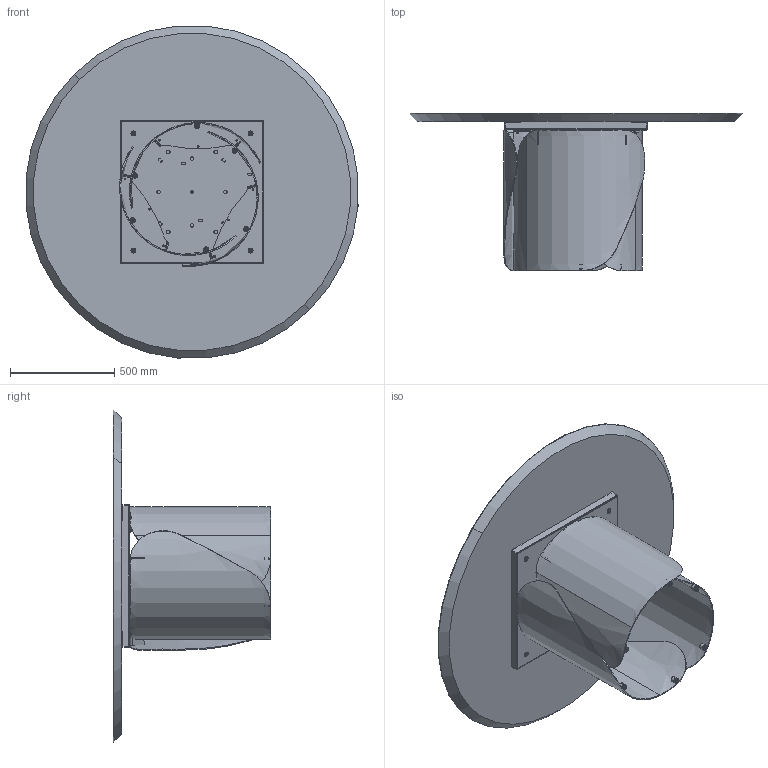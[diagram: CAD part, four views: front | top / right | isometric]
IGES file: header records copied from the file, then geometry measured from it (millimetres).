
Start section: SolidWorks IGES file using analytic representation for surfaces
Global section: file name: Y:\eforma\TECNICO\SOLIDWORKS\E-FORMA\1-TAVOLI\ONDA\02 parts\ON08W.IGS; native system: SolidWorks 2022; preprocessor: SolidWorks 2022; author: eforma.tech; date: 240806.153200; units: millimetre
Bounding box: 1593.91 x 756 x 1593.91 mm (x, y, z)
Volume: 87793224 mm3; surface area: 8753215.5 mm2
Topology: 62 solids, 62 shells, 1703 faces, 4015 edges, 2464 vertices
Faces by surface type: revolution 969, plane 674, bspline 60
